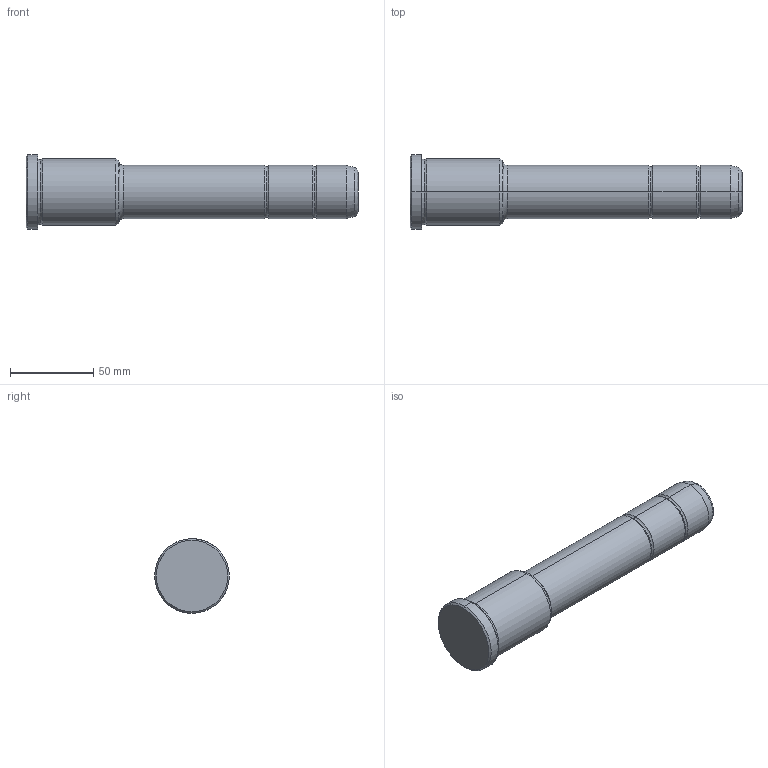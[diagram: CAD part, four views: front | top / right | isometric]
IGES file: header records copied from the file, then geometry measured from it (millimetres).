
Start section: START RECORD GO HERE.
Global section: file name: 351-32X56X200.igs; native system: DASSAULT SYSTEMES CATIA V5 R20 - www.3ds.com; preprocessor: CATIA Version 5 Release 20 ; author: Utente; organization: NB04-ASUS; date: 20210907.143414; units: millimetre
Bounding box: 200 x 45 x 45 mm (x, y, z)
Surface area: 24375.1 mm2 (no closed solid volume)
Topology: 0 solids, 0 shells, 36 faces, 204 edges, 204 vertices
Faces by surface type: revolution 32, plane 4
